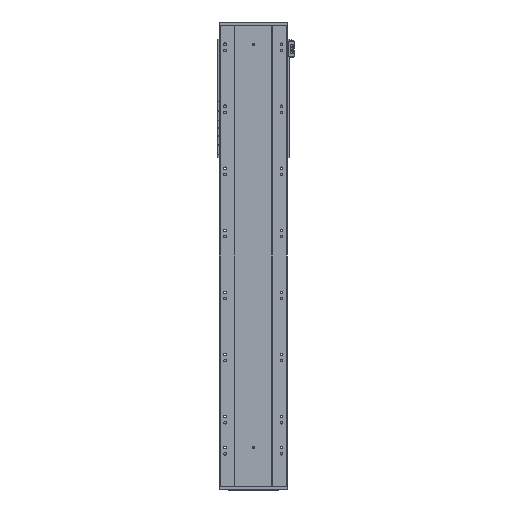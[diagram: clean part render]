
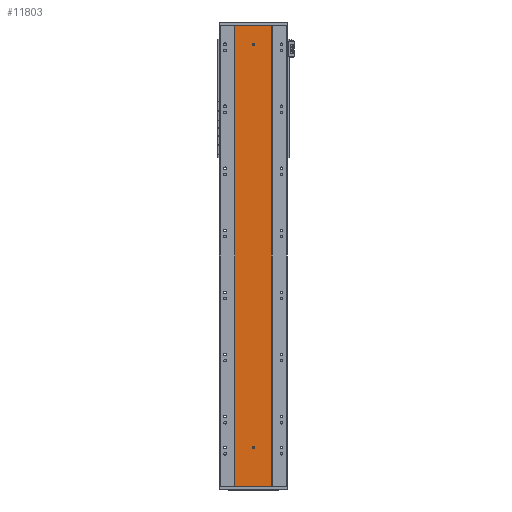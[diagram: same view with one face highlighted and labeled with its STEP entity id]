
A CAD part, front view. The second image highlights one B-rep face of the part: STEP entity #11803.
In plain terms, the highlighted planar face has unit normal (0, -1, 0).
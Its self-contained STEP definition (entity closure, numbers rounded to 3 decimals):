
#859 = AXIS2_PLACEMENT_3D ( 'NONE', #5466, #15318, #20201 ) ;
#889 = CARTESIAN_POINT ( 'NONE',  ( 0., 0., 129. ) ) ;
#1052 = CARTESIAN_POINT ( 'NONE',  ( 0., 0., 125. ) ) ;
#1068 = VECTOR ( 'NONE', #8200, 1000. ) ;
#2059 = EDGE_CURVE ( 'NONE', #12140, #34901, #23460, .T. ) ;
#3365 = LINE ( 'NONE', #40129, #40277 ) ;
#3883 = EDGE_CURVE ( 'NONE', #34901, #12140, #62213, .T. ) ;
#4185 = DIRECTION ( 'NONE',  ( 0., 0., -1. ) ) ;
#5466 = CARTESIAN_POINT ( 'NONE',  ( 0., 0., 1425. ) ) ;
#5925 = VECTOR ( 'NONE', #59874, 1000. ) ;
#6630 = LINE ( 'NONE', #49814, #5925 ) ;
#7382 = VERTEX_POINT ( 'NONE', #52059 ) ;
#7983 = CARTESIAN_POINT ( 'NONE',  ( -60., 0., 1485. ) ) ;
#8021 = CARTESIAN_POINT ( 'NONE',  ( 60., 0., 1485. ) ) ;
#8200 = DIRECTION ( 'NONE',  ( 0., 0., -1. ) ) ;
#8678 = FACE_BOUND ( 'NONE', #61569, .T. ) ;
#8932 = CIRCLE ( 'NONE', #53905, 4. ) ;
#9226 = CARTESIAN_POINT ( 'NONE',  ( 0., 0., 125. ) ) ;
#9282 = AXIS2_PLACEMENT_3D ( 'NONE', #28216, #61824, #4185 ) ;
#10024 = EDGE_LOOP ( 'NONE', ( #53580, #32986 ) ) ;
#10812 = ORIENTED_EDGE ( 'NONE', *, *, #16968, .F. ) ;
#10898 = CARTESIAN_POINT ( 'NONE',  ( 0., 0., 1421. ) ) ;
#10990 = DIRECTION ( 'NONE',  ( 0., 0., -1. ) ) ;
#11803 = ADVANCED_FACE ( 'NONE', ( #8678, #58379, #56158 ), #60584, .F. ) ;
#12122 = EDGE_CURVE ( 'NONE', #7382, #47675, #3365, .T. ) ;
#12140 = VERTEX_POINT ( 'NONE', #10898 ) ;
#12461 = EDGE_CURVE ( 'NONE', #44032, #7382, #58320, .T. ) ;
#14583 = CARTESIAN_POINT ( 'NONE',  ( 0., 0., 121. ) ) ;
#15143 = LINE ( 'NONE', #20480, #20424 ) ;
#15318 = DIRECTION ( 'NONE',  ( 0., -1., 0. ) ) ;
#16968 = EDGE_CURVE ( 'NONE', #44032, #51892, #6630, .T. ) ;
#19920 = CARTESIAN_POINT ( 'NONE',  ( -60., 0., 1485. ) ) ;
#20201 = DIRECTION ( 'NONE',  ( 0., 0., -1. ) ) ;
#20424 = VECTOR ( 'NONE', #10990, 1000. ) ;
#20480 = CARTESIAN_POINT ( 'NONE',  ( 60., 0., 1485. ) ) ;
#21465 = CARTESIAN_POINT ( 'NONE',  ( 0., 0., 1429. ) ) ;
#23460 = CIRCLE ( 'NONE', #9282, 4. ) ;
#28216 = CARTESIAN_POINT ( 'NONE',  ( 0., 0., 1425. ) ) ;
#28839 = DIRECTION ( 'NONE',  ( 0., -1., 0. ) ) ;
#29567 = ORIENTED_EDGE ( 'NONE', *, *, #41246, .F. ) ;
#32842 = VERTEX_POINT ( 'NONE', #14583 ) ;
#32986 = ORIENTED_EDGE ( 'NONE', *, *, #57549, .F. ) ;
#33626 = ORIENTED_EDGE ( 'NONE', *, *, #3883, .F. ) ;
#34901 = VERTEX_POINT ( 'NONE', #21465 ) ;
#34978 = DIRECTION ( 'NONE',  ( 0., -1., 0. ) ) ;
#36515 = ORIENTED_EDGE ( 'NONE', *, *, #2059, .F. ) ;
#37081 = AXIS2_PLACEMENT_3D ( 'NONE', #7983, #56599, #41254 ) ;
#40129 = CARTESIAN_POINT ( 'NONE',  ( -60., 0., 0. ) ) ;
#40277 = VECTOR ( 'NONE', #44985, 1000. ) ;
#41246 = EDGE_CURVE ( 'NONE', #51892, #47675, #15143, .T. ) ;
#41254 = DIRECTION ( 'NONE',  ( 0., 0., 1. ) ) ;
#43159 = EDGE_CURVE ( 'NONE', #32842, #62236, #8932, .T. ) ;
#44032 = VERTEX_POINT ( 'NONE', #19920 ) ;
#44985 = DIRECTION ( 'NONE',  ( 1., 0., 0. ) ) ;
#46558 = CARTESIAN_POINT ( 'NONE',  ( -60., 0., 1485. ) ) ;
#47675 = VERTEX_POINT ( 'NONE', #51280 ) ;
#49503 = DIRECTION ( 'NONE',  ( 0., 0., -1. ) ) ;
#49814 = CARTESIAN_POINT ( 'NONE',  ( -60., 0., 1485. ) ) ;
#50121 = ORIENTED_EDGE ( 'NONE', *, *, #12122, .T. ) ;
#51280 = CARTESIAN_POINT ( 'NONE',  ( 60., 0., 0. ) ) ;
#51892 = VERTEX_POINT ( 'NONE', #8021 ) ;
#52059 = CARTESIAN_POINT ( 'NONE',  ( -60., 0., 0. ) ) ;
#53580 = ORIENTED_EDGE ( 'NONE', *, *, #43159, .F. ) ;
#53905 = AXIS2_PLACEMENT_3D ( 'NONE', #1052, #34978, #49503 ) ;
#56158 = FACE_OUTER_BOUND ( 'NONE', #56754, .T. ) ;
#56599 = DIRECTION ( 'NONE',  ( 0., 1., 0. ) ) ;
#56754 = EDGE_LOOP ( 'NONE', ( #50121, #29567, #10812, #57654 ) ) ;
#57400 = AXIS2_PLACEMENT_3D ( 'NONE', #9226, #28839, #58243 ) ;
#57444 = CIRCLE ( 'NONE', #57400, 4. ) ;
#57549 = EDGE_CURVE ( 'NONE', #62236, #32842, #57444, .T. ) ;
#57654 = ORIENTED_EDGE ( 'NONE', *, *, #12461, .T. ) ;
#58243 = DIRECTION ( 'NONE',  ( 0., 0., -1. ) ) ;
#58320 = LINE ( 'NONE', #46558, #1068 ) ;
#58379 = FACE_BOUND ( 'NONE', #10024, .T. ) ;
#59874 = DIRECTION ( 'NONE',  ( 1., 0., 0. ) ) ;
#60584 = PLANE ( 'NONE',  #37081 ) ;
#61569 = EDGE_LOOP ( 'NONE', ( #36515, #33626 ) ) ;
#61824 = DIRECTION ( 'NONE',  ( 0., -1., 0. ) ) ;
#62213 = CIRCLE ( 'NONE', #859, 4. ) ;
#62236 = VERTEX_POINT ( 'NONE', #889 ) ;
